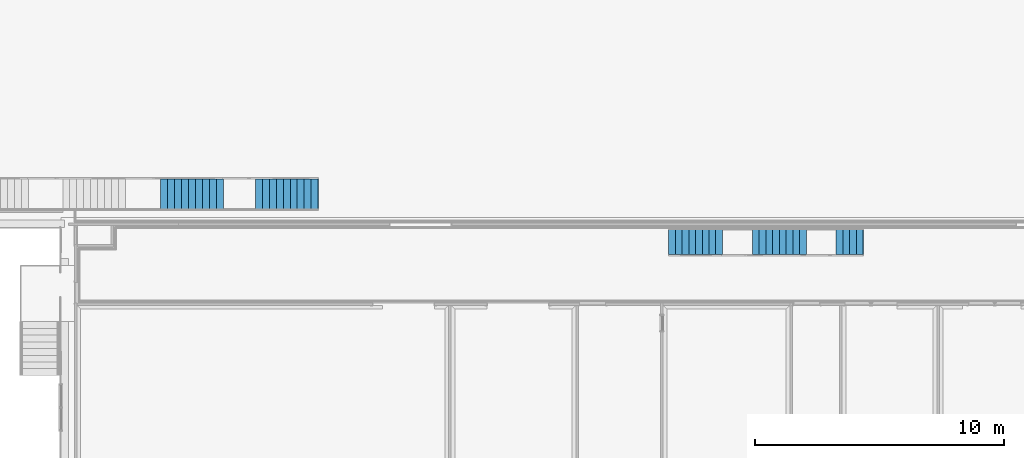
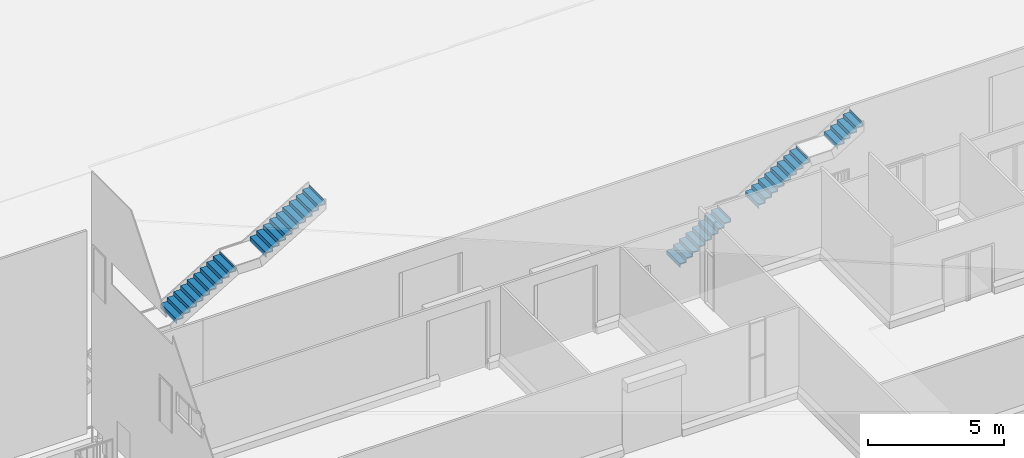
# One storey, part 54 of 64: 5 stair flights, 2 elements without a shape of their own.
"""IFC2X3 building model written with IfcOpenShell, lengths in millimetres."""

from ifc_helpers import new_model, entity, si_unit, converted_unit, derived_unit, direction, frame, frame_2d, origin, origin_2d_with_axis, place, context, subcontext, project, spatial, rectangle, extrude, element, aggregate, save


model = new_model("IFC2X3")

# Units and contexts
model_context = context("Model", 3, precision=0.01, world=origin(), true_north=direction((4.05803320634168e-15, -1.0)))
body_context = subcontext(model_context, "Body", "Model", "MODEL_VIEW")
ifc_project = project(units=[si_unit("LENGTHUNIT", "METRE", prefix="MILLI"), si_unit("AREAUNIT", "SQUARE_METRE"), si_unit("VOLUMEUNIT", "CUBIC_METRE"), converted_unit("PLANEANGLEUNIT", "DEGREE", entity("IfcRatioMeasure", 0.0174532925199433), si_unit("PLANEANGLEUNIT", "RADIAN"), dimensions=[0, 0, 0, 0, 0, 0, 0]), si_unit("MASSUNIT", "GRAM", prefix="KILO"), derived_unit("MASSDENSITYUNIT", [(si_unit("MASSUNIT", "GRAM", prefix="KILO"), 1), (si_unit("LENGTHUNIT", "METRE"), -3)]), si_unit("TIMEUNIT", "SECOND"), si_unit("FREQUENCYUNIT", "HERTZ"), si_unit("THERMODYNAMICTEMPERATUREUNIT", "DEGREE_CELSIUS"), derived_unit("THERMALTRANSMITTANCEUNIT", [(si_unit("MASSUNIT", "GRAM", prefix="KILO"), 1), (si_unit("THERMODYNAMICTEMPERATUREUNIT", "KELVIN"), -1), (si_unit("TIMEUNIT", "SECOND"), -3)]), derived_unit("VOLUMETRICFLOWRATEUNIT", [(si_unit("LENGTHUNIT", "METRE"), 3), (si_unit("TIMEUNIT", "SECOND"), -1)]), si_unit("ELECTRICCURRENTUNIT", "AMPERE"), si_unit("ELECTRICVOLTAGEUNIT", "VOLT"), si_unit("POWERUNIT", "WATT"), si_unit("FORCEUNIT", "NEWTON", prefix="KILO"), si_unit("ILLUMINANCEUNIT", "LUX"), si_unit("LUMINOUSFLUXUNIT", "LUMEN"), si_unit("LUMINOUSINTENSITYUNIT", "CANDELA"), derived_unit("USERDEFINED", [(si_unit("MASSUNIT", "GRAM", prefix="KILO"), -1), (si_unit("LENGTHUNIT", "METRE"), -2), (si_unit("TIMEUNIT", "SECOND"), 3), (si_unit("LUMINOUSFLUXUNIT", "LUMEN"), 1)]), derived_unit("LINEARVELOCITYUNIT", [(si_unit("LENGTHUNIT", "METRE"), 1), (si_unit("TIMEUNIT", "SECOND"), -1)]), si_unit("PRESSUREUNIT", "PASCAL"), derived_unit("USERDEFINED", [(si_unit("LENGTHUNIT", "METRE"), -2), (si_unit("MASSUNIT", "GRAM", prefix="KILO"), 1), (si_unit("TIMEUNIT", "SECOND"), -2)])], contexts=[model_context])

# Site, building, storey
site_placement = place(None, frame((927466.849349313, 583801.882853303, 0.0), z_axis=(0.0, 0.0, 1.0), x_axis=(-1.0, 0.0, 0.0)))
site = spatial("IfcSite", under=ifc_project, at=site_placement, Name="Surface", CompositionType="ELEMENT")
building_placement = place(site_placement, origin())
building = spatial("IfcBuilding", under=site, at=building_placement, CompositionType="ELEMENT")
storey_placement = place(building_placement, frame((0.0, 0.0, 44170.0)))
storey = spatial("IfcBuildingStorey", under=building, at=storey_placement, Name="Ground FFL", CompositionType="ELEMENT", Elevation=44170.0)

# Stair, stair flights
stair_1_placement = place(storey_placement, origin())
stair_1 = element("IfcStair", 1, at=stair_1_placement, inside=storey, Name="Assembled Stair:Stair", ObjectType="Assembled Stair:190mm max riser 250mm going", ShapeType="NOTDEFINED")
stair_flight_1_placement = place(stair_1_placement, origin())
stair_flight_1 = element("IfcStairFlight", 2, at=stair_flight_1_placement, Name="Assembled Stair:Stair:516542 Run 1", ObjectType="Assembled Stair:190mm max riser 250mm going", NumberOfRiser=10, NumberOfTreads=9, RiserHeight=0.548708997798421, TreadLength=0.918635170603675, context=body_context, shape_type="SweptSolid", body=[
    extrude(rectangle(XDim=1200.0, YDim=12.5000000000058, at=origin_2d_with_axis()), frame((-88605.2898327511, 10739.2777512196, 5134.64157839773), z_axis=(0.0, 0.0, 1.0), x_axis=(0.0, -1.0, 0.0)), (0.0, 0.0, 1.0), 167.246502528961),
    extrude(rectangle(XDim=280.000000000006, YDim=1200.0, at=origin_2d_with_axis()), frame((-88739.0398327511, 10739.2777512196, 5301.88808092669)), (0.0, 0.0, 1.0), 49.9999999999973),
    extrude(rectangle(XDim=1200.0, YDim=12.5000000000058, at=frame_2d((0.0, 8.66329230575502e-12), x_axis=(1.0, 0.0))), frame((-88885.2898327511, 10739.2777512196, 5301.88808092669), z_axis=(0.0, 0.0, 1.0), x_axis=(0.0, -1.0, 0.0)), (0.0, 0.0, 1.0), 167.246502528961),
    extrude(rectangle(XDim=279.999999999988, YDim=1200.0, at=frame_2d((-8.65441052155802e-12, 1.08002495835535e-12), x_axis=(1.0, 0.0))), frame((-89019.0398327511, 10739.2777512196, 5469.13458345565)), (0.0, 0.0, 1.0), 49.9999999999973),
    extrude(rectangle(XDim=1200.0, YDim=12.5000000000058, at=frame_2d((0.0, 8.66329230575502e-12), x_axis=(1.0, 0.0))), frame((-89165.2898327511, 10739.2777512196, 5469.13458345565), z_axis=(0.0, 0.0, 1.0), x_axis=(0.0, -1.0, 0.0)), (0.0, 0.0, 1.0), 167.246502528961),
    extrude(rectangle(XDim=279.999999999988, YDim=1200.0, at=frame_2d((-8.65441052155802e-12, 1.08002495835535e-12), x_axis=(1.0, 0.0))), frame((-89299.0398327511, 10739.2777512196, 5636.38108598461)), (0.0, 0.0, 1.0), 49.9999999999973),
    extrude(rectangle(XDim=1200.0, YDim=12.5000000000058, at=frame_2d((0.0, 8.66329230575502e-12), x_axis=(1.0, 0.0))), frame((-89445.2898327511, 10739.2777512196, 5636.38108598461), z_axis=(0.0, 0.0, 1.0), x_axis=(0.0, -1.0, 0.0)), (0.0, 0.0, 1.0), 167.246502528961),
    extrude(rectangle(XDim=279.999999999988, YDim=1200.0, at=frame_2d((-8.65441052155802e-12, 1.08002495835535e-12), x_axis=(1.0, 0.0))), frame((-89579.0398327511, 10739.2777512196, 5803.62758851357)), (0.0, 0.0, 1.0), 49.9999999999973),
    extrude(rectangle(XDim=1200.0, YDim=12.5000000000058, at=frame_2d((0.0, -8.66329230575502e-12), x_axis=(1.0, 0.0))), frame((-89725.2898327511, 10739.2777512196, 5803.62758851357), z_axis=(0.0, 0.0, 1.0), x_axis=(0.0, -1.0, 0.0)), (0.0, 0.0, 1.0), 167.246502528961),
    extrude(rectangle(XDim=279.999999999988, YDim=1200.0, at=frame_2d((8.65441052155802e-12, 1.08002495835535e-12), x_axis=(1.0, 0.0))), frame((-89859.0398327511, 10739.2777512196, 5970.87409104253)), (0.0, 0.0, 1.0), 49.9999999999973),
    extrude(rectangle(XDim=1200.0, YDim=12.5000000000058, at=frame_2d((0.0, -8.66329230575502e-12), x_axis=(1.0, 0.0))), frame((-90005.2898327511, 10739.2777512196, 5970.87409104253), z_axis=(0.0, 0.0, 1.0), x_axis=(0.0, -1.0, 0.0)), (0.0, 0.0, 1.0), 167.246502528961),
    extrude(rectangle(XDim=279.999999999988, YDim=1200.0, at=frame_2d((8.65441052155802e-12, 1.08002495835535e-12), x_axis=(1.0, 0.0))), frame((-90139.0398327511, 10739.2777512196, 6138.12059357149)), (0.0, 0.0, 1.0), 49.9999999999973),
    extrude(rectangle(XDim=1200.0, YDim=12.5000000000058, at=frame_2d((0.0, -8.66329230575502e-12), x_axis=(1.0, 0.0))), frame((-90285.2898327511, 10739.2777512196, 6138.12059357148), z_axis=(0.0, 0.0, 1.0), x_axis=(0.0, -1.0, 0.0)), (0.0, 0.0, 1.0), 167.246502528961),
    extrude(rectangle(XDim=279.999999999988, YDim=1200.0, at=frame_2d((8.65441052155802e-12, 1.08002495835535e-12), x_axis=(1.0, 0.0))), frame((-90419.0398327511, 10739.2777512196, 6305.36709610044)), (0.0, 0.0, 1.0), 49.9999999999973),
    extrude(rectangle(XDim=1200.0, YDim=12.5000000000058, at=frame_2d((0.0, 8.66329230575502e-12), x_axis=(1.0, 0.0))), frame((-90565.2898327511, 10739.2777512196, 6305.36709610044), z_axis=(0.0, 0.0, 1.0), x_axis=(0.0, -1.0, 0.0)), (0.0, 0.0, 1.0), 167.246502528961),
    extrude(rectangle(XDim=279.999999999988, YDim=1200.0, at=frame_2d((-8.65441052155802e-12, -1.08002495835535e-12), x_axis=(1.0, 0.0))), frame((-90699.0398327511, 10739.2777512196, 6472.6135986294)), (0.0, 0.0, 1.0), 49.9999999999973),
    extrude(rectangle(XDim=1200.0, YDim=12.5000000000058, at=frame_2d((0.0, 8.66329230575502e-12), x_axis=(1.0, 0.0))), frame((-90845.2898327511, 10739.2777512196, 6472.6135986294), z_axis=(0.0, 0.0, 1.0), x_axis=(0.0, -1.0, 0.0)), (0.0, 0.0, 1.0), 167.246502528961),
    extrude(rectangle(XDim=1200.0, YDim=12.5000000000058, at=origin_2d_with_axis()), frame((-91125.2898327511, 10739.2777512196, 6639.86010115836), z_axis=(0.0, 0.0, 1.0), x_axis=(0.0, -1.0, 0.0)), (0.0, 0.0, 1.0), 167.246502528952),
    extrude(rectangle(XDim=279.999999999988, YDim=1200.0, at=frame_2d((-8.65441052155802e-12, -1.08002495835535e-12), x_axis=(1.0, 0.0))), frame((-90979.0398327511, 10739.2777512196, 6639.86010115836)), (0.0, 0.0, 1.0), 49.9999999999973),
])
stair_flight_2_placement = place(stair_1_placement, origin())
stair_flight_2 = element("IfcStairFlight", 3, at=stair_flight_2_placement, Name="Assembled Stair:Stair:516542 Run 2", ObjectType="Assembled Stair:190mm max riser 250mm going", NumberOfRiser=10, NumberOfTreads=9, RiserHeight=0.548708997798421, TreadLength=0.918635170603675, context=body_context, shape_type="SweptSolid", body=[
    extrude(rectangle(XDim=1200.0, YDim=12.5000000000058, at=origin_2d_with_axis()), frame((-84805.2898327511, 10739.2777512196, 3462.17655310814), z_axis=(0.0, 0.0, 1.0), x_axis=(0.0, -1.0, 0.0)), (0.0, 0.0, 1.0), 167.246502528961),
    extrude(rectangle(XDim=280.000000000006, YDim=1200.0, at=origin_2d_with_axis()), frame((-84939.0398327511, 10739.2777512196, 3629.4230556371)), (0.0, 0.0, 1.0), 49.9999999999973),
    extrude(rectangle(XDim=1200.0, YDim=12.5000000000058, at=frame_2d((0.0, 8.66329230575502e-12), x_axis=(1.0, 0.0))), frame((-85085.2898327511, 10739.2777512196, 3629.4230556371), z_axis=(0.0, 0.0, 1.0), x_axis=(0.0, -1.0, 0.0)), (0.0, 0.0, 1.0), 167.246502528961),
    extrude(rectangle(XDim=279.999999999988, YDim=1200.0, at=frame_2d((-8.65441052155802e-12, 1.08002495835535e-12), x_axis=(1.0, 0.0))), frame((-85219.0398327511, 10739.2777512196, 3796.66955816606)), (0.0, 0.0, 1.0), 49.9999999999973),
    extrude(rectangle(XDim=1200.0, YDim=12.5000000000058, at=frame_2d((0.0, 8.66329230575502e-12), x_axis=(1.0, 0.0))), frame((-85365.2898327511, 10739.2777512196, 3796.66955816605), z_axis=(0.0, 0.0, 1.0), x_axis=(0.0, -1.0, 0.0)), (0.0, 0.0, 1.0), 167.246502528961),
    extrude(rectangle(XDim=279.999999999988, YDim=1200.0, at=frame_2d((-8.65441052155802e-12, 1.08002495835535e-12), x_axis=(1.0, 0.0))), frame((-85499.0398327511, 10739.2777512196, 3963.91606069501)), (0.0, 0.0, 1.0), 49.9999999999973),
    extrude(rectangle(XDim=1200.0, YDim=12.5000000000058, at=frame_2d((0.0, 8.66329230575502e-12), x_axis=(1.0, 0.0))), frame((-85645.2898327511, 10739.2777512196, 3963.91606069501), z_axis=(0.0, 0.0, 1.0), x_axis=(0.0, -1.0, 0.0)), (0.0, 0.0, 1.0), 167.246502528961),
    extrude(rectangle(XDim=279.999999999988, YDim=1200.0, at=frame_2d((-8.65441052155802e-12, -1.08002495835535e-12), x_axis=(1.0, 0.0))), frame((-85779.0398327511, 10739.2777512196, 4131.16256322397)), (0.0, 0.0, 1.0), 49.9999999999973),
    extrude(rectangle(XDim=1200.0, YDim=12.5000000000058, at=frame_2d((0.0, -8.66329230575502e-12), x_axis=(1.0, 0.0))), frame((-85925.2898327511, 10739.2777512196, 4131.16256322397), z_axis=(0.0, 0.0, 1.0), x_axis=(0.0, -1.0, 0.0)), (0.0, 0.0, 1.0), 167.246502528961),
    extrude(rectangle(XDim=279.999999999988, YDim=1200.0, at=frame_2d((8.65441052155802e-12, -1.08002495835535e-12), x_axis=(1.0, 0.0))), frame((-86059.0398327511, 10739.2777512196, 4298.40906575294)), (0.0, 0.0, 1.0), 49.9999999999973),
    extrude(rectangle(XDim=1200.0, YDim=12.5000000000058, at=frame_2d((0.0, -8.66329230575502e-12), x_axis=(1.0, 0.0))), frame((-86205.2898327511, 10739.2777512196, 4298.40906575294), z_axis=(0.0, 0.0, 1.0), x_axis=(0.0, -1.0, 0.0)), (0.0, 0.0, 1.0), 167.246502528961),
    extrude(rectangle(XDim=279.999999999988, YDim=1200.0, at=frame_2d((8.65441052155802e-12, 1.08002495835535e-12), x_axis=(1.0, 0.0))), frame((-86339.0398327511, 10739.2777512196, 4465.6555682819)), (0.0, 0.0, 1.0), 49.9999999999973),
    extrude(rectangle(XDim=1200.0, YDim=12.5000000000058, at=frame_2d((0.0, -8.66329230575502e-12), x_axis=(1.0, 0.0))), frame((-86485.2898327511, 10739.2777512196, 4465.65556828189), z_axis=(0.0, 0.0, 1.0), x_axis=(0.0, -1.0, 0.0)), (0.0, 0.0, 1.0), 167.246502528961),
    extrude(rectangle(XDim=279.999999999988, YDim=1200.0, at=frame_2d((8.65441052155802e-12, 1.08002495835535e-12), x_axis=(1.0, 0.0))), frame((-86619.0398327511, 10739.2777512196, 4632.90207081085)), (0.0, 0.0, 1.0), 49.9999999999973),
    extrude(rectangle(XDim=1200.0, YDim=12.5000000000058, at=frame_2d((0.0, 8.66329230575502e-12), x_axis=(1.0, 0.0))), frame((-86765.2898327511, 10739.2777512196, 4632.90207081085), z_axis=(0.0, 0.0, 1.0), x_axis=(0.0, -1.0, 0.0)), (0.0, 0.0, 1.0), 167.246502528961),
    extrude(rectangle(XDim=279.999999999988, YDim=1200.0, at=frame_2d((-8.65441052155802e-12, 1.08002495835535e-12), x_axis=(1.0, 0.0))), frame((-86899.0398327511, 10739.2777512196, 4800.14857333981)), (0.0, 0.0, 1.0), 49.9999999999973),
    extrude(rectangle(XDim=1200.0, YDim=12.5000000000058, at=frame_2d((0.0, 8.66329230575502e-12), x_axis=(1.0, 0.0))), frame((-87045.2898327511, 10739.2777512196, 4800.14857333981), z_axis=(0.0, 0.0, 1.0), x_axis=(0.0, -1.0, 0.0)), (0.0, 0.0, 1.0), 167.246502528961),
    extrude(rectangle(XDim=1200.0, YDim=12.5000000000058, at=origin_2d_with_axis()), frame((-87325.2898327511, 10739.2777512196, 4967.39507586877), z_axis=(0.0, 0.0, 1.0), x_axis=(0.0, -1.0, 0.0)), (0.0, 0.0, 1.0), 167.246502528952),
    extrude(rectangle(XDim=279.999999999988, YDim=1200.0, at=frame_2d((-8.65441052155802e-12, 1.08002495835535e-12), x_axis=(1.0, 0.0))), frame((-87179.0398327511, 10739.2777512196, 4967.39507586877)), (0.0, 0.0, 1.0), 49.9999999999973),
])
aggregate(stair_1, [stair_flight_1, stair_flight_2])

stair_2_placement = place(storey_placement, origin())
stair_2 = element("IfcStair", 4, at=stair_2_placement, inside=storey, Name="Assembled Stair:Stair", ObjectType="Assembled Stair:170mm max riser 270mm going", ShapeType="NOTDEFINED")
stair_flight_3_placement = place(stair_2_placement, origin())
stair_flight_3 = element("IfcStairFlight", 5, at=stair_flight_3_placement, Name="Assembled Stair:Stair:621048 Run 1", ObjectType="Assembled Stair:170mm max riser 270mm going", NumberOfRiser=9, NumberOfTreads=8, RiserHeight=0.546806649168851, TreadLength=0.885826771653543, context=body_context, shape_type="SweptSolid", body=[
    extrude(rectangle(XDim=999.999999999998, YDim=12.5000000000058, at=origin_2d_with_axis()), frame((-105175.244501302, 12672.4703497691, 0.0), z_axis=(0.0, 0.0, 1.0), x_axis=(0.0, -1.0, 0.0)), (0.0, 0.0, 1.0), 116.666666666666),
    extrude(rectangle(XDim=270.000000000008, YDim=999.999999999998, at=origin_2d_with_axis()), frame((-105303.994501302, 12672.4703497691, 116.666666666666)), (0.0, 0.0, 1.0), 49.9999999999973),
    extrude(rectangle(XDim=999.999999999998, YDim=12.5000000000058, at=origin_2d_with_axis()), frame((-105445.244501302, 12672.4703497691, 116.666666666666), z_axis=(0.0, 0.0, 1.0), x_axis=(0.0, -1.0, 0.0)), (0.0, 0.0, 1.0), 166.666666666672),
    extrude(rectangle(XDim=269.999999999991, YDim=1000.0, at=frame_2d((-8.66862137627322e-12, -2.18847162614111e-12), x_axis=(1.0, 0.0))), frame((-105573.994501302, 12672.4703497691, 283.333333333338)), (0.0, 0.0, 1.0), 49.9999999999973),
    extrude(rectangle(XDim=999.999999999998, YDim=12.5000000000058, at=origin_2d_with_axis()), frame((-105715.244501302, 12672.4703497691, 283.33333333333), z_axis=(0.0, 0.0, 1.0), x_axis=(0.0, -1.0, 0.0)), (0.0, 0.0, 1.0), 166.666666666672),
    extrude(rectangle(XDim=269.999999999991, YDim=1000.0, at=frame_2d((-8.66862137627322e-12, -2.18847162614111e-12), x_axis=(1.0, 0.0))), frame((-105843.994501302, 12672.4703497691, 450.0)), (0.0, 0.0, 1.0), 49.9999999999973),
    extrude(rectangle(XDim=999.999999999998, YDim=12.5000000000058, at=origin_2d_with_axis()), frame((-105985.244501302, 12672.4703497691, 450.0), z_axis=(0.0, 0.0, 1.0), x_axis=(0.0, -1.0, 0.0)), (0.0, 0.0, 1.0), 166.666666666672),
    extrude(rectangle(XDim=269.999999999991, YDim=1000.0, at=frame_2d((8.66862137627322e-12, -2.18847162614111e-12), x_axis=(1.0, 0.0))), frame((-106113.994501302, 12672.4703497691, 616.666666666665)), (0.0, 0.0, 1.0), 49.9999999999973),
    extrude(rectangle(XDim=999.999999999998, YDim=12.5000000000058, at=origin_2d_with_axis()), frame((-106255.244501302, 12672.4703497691, 616.666666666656), z_axis=(0.0, 0.0, 1.0), x_axis=(0.0, -1.0, 0.0)), (0.0, 0.0, 1.0), 166.666666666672),
    extrude(rectangle(XDim=269.999999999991, YDim=1000.0, at=frame_2d((8.66862137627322e-12, -2.18847162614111e-12), x_axis=(1.0, 0.0))), frame((-106383.994501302, 12672.4703497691, 783.333333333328)), (0.0, 0.0, 1.0), 49.9999999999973),
    extrude(rectangle(XDim=999.999999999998, YDim=12.5000000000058, at=origin_2d_with_axis()), frame((-106525.244501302, 12672.4703497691, 783.333333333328), z_axis=(0.0, 0.0, 1.0), x_axis=(0.0, -1.0, 0.0)), (0.0, 0.0, 1.0), 166.666666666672),
    extrude(rectangle(XDim=269.999999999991, YDim=1000.0, at=frame_2d((-8.66862137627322e-12, -2.18847162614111e-12), x_axis=(1.0, 0.0))), frame((-106653.994501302, 12672.4703497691, 950.0)), (0.0, 0.0, 1.0), 49.9999999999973),
    extrude(rectangle(XDim=999.999999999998, YDim=12.5000000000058, at=origin_2d_with_axis()), frame((-106795.244501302, 12672.4703497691, 950.0), z_axis=(0.0, 0.0, 1.0), x_axis=(0.0, -1.0, 0.0)), (0.0, 0.0, 1.0), 166.666666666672),
    extrude(rectangle(XDim=269.999999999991, YDim=1000.0, at=frame_2d((-8.66862137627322e-12, -2.18847162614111e-12), x_axis=(1.0, 0.0))), frame((-106923.994501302, 12672.4703497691, 1116.66666666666)), (0.0, 0.0, 1.0), 49.9999999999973),
    extrude(rectangle(XDim=999.999999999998, YDim=12.5000000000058, at=origin_2d_with_axis()), frame((-107065.244501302, 12672.4703497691, 1116.66666666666), z_axis=(0.0, 0.0, 1.0), x_axis=(0.0, -1.0, 0.0)), (0.0, 0.0, 1.0), 166.666666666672),
    extrude(rectangle(XDim=1000.0, YDim=12.5000000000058, at=origin_2d_with_axis()), frame((-107335.244501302, 12672.4703497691, 1283.33333333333), z_axis=(0.0, 0.0, 1.0), x_axis=(0.0, -1.0, 0.0)), (0.0, 0.0, 1.0), 166.666666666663),
    extrude(rectangle(XDim=269.999999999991, YDim=1000.0, at=frame_2d((8.66862137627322e-12, -2.18847162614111e-12), x_axis=(1.0, 0.0))), frame((-107193.994501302, 12672.4703497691, 1283.33333333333)), (0.0, 0.0, 1.0), 49.9999999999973),
])
stair_flight_4_placement = place(stair_2_placement, origin())
stair_flight_4 = element("IfcStairFlight", 6, at=stair_flight_4_placement, Name="Assembled Stair:Stair:621048 Run 2", ObjectType="Assembled Stair:170mm max riser 270mm going", NumberOfRiser=9, NumberOfTreads=8, RiserHeight=0.546806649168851, TreadLength=0.885826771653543, context=body_context, shape_type="SweptSolid", body=[
    extrude(rectangle(XDim=999.999999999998, YDim=12.5000000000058, at=origin_2d_with_axis()), frame((-108535.190011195, 12672.4703497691, 1450.0), z_axis=(0.0, 0.0, 1.0), x_axis=(0.0, -1.0, 0.0)), (0.0, 0.0, 1.0), 166.666666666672),
    extrude(rectangle(XDim=270.000000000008, YDim=999.999999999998, at=origin_2d_with_axis()), frame((-108663.940011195, 12672.4703497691, 1616.66666666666)), (0.0, 0.0, 1.0), 49.9999999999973),
    extrude(rectangle(XDim=999.999999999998, YDim=12.5000000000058, at=origin_2d_with_axis()), frame((-108805.190011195, 12672.4703497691, 1616.66666666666), z_axis=(0.0, 0.0, 1.0), x_axis=(0.0, -1.0, 0.0)), (0.0, 0.0, 1.0), 166.666666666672),
    extrude(rectangle(XDim=269.999999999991, YDim=1000.0, at=frame_2d((-8.66862137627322e-12, -2.18847162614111e-12), x_axis=(1.0, 0.0))), frame((-108933.940011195, 12672.4703497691, 1783.33333333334)), (0.0, 0.0, 1.0), 49.9999999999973),
    extrude(rectangle(XDim=999.999999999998, YDim=12.5000000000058, at=origin_2d_with_axis()), frame((-109075.190011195, 12672.4703497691, 1783.33333333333), z_axis=(0.0, 0.0, 1.0), x_axis=(0.0, -1.0, 0.0)), (0.0, 0.0, 1.0), 166.666666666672),
    extrude(rectangle(XDim=269.999999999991, YDim=1000.0, at=frame_2d((-8.66862137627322e-12, -2.18847162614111e-12), x_axis=(1.0, 0.0))), frame((-109203.940011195, 12672.4703497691, 1950.0)), (0.0, 0.0, 1.0), 49.9999999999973),
    extrude(rectangle(XDim=999.999999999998, YDim=12.5000000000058, at=origin_2d_with_axis()), frame((-109345.190011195, 12672.4703497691, 1950.0), z_axis=(0.0, 0.0, 1.0), x_axis=(0.0, -1.0, 0.0)), (0.0, 0.0, 1.0), 166.666666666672),
    extrude(rectangle(XDim=269.999999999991, YDim=1000.0, at=frame_2d((8.66862137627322e-12, -2.18847162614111e-12), x_axis=(1.0, 0.0))), frame((-109473.940011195, 12672.4703497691, 2116.66666666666)), (0.0, 0.0, 1.0), 49.9999999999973),
    extrude(rectangle(XDim=999.999999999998, YDim=12.5000000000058, at=origin_2d_with_axis()), frame((-109615.190011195, 12672.4703497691, 2116.66666666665), z_axis=(0.0, 0.0, 1.0), x_axis=(0.0, -1.0, 0.0)), (0.0, 0.0, 1.0), 166.666666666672),
    extrude(rectangle(XDim=269.999999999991, YDim=1000.0, at=frame_2d((8.66862137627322e-12, -2.18847162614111e-12), x_axis=(1.0, 0.0))), frame((-109743.940011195, 12672.4703497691, 2283.33333333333)), (0.0, 0.0, 1.0), 49.9999999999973),
    extrude(rectangle(XDim=999.999999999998, YDim=12.5000000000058, at=origin_2d_with_axis()), frame((-109885.190011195, 12672.4703497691, 2283.33333333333), z_axis=(0.0, 0.0, 1.0), x_axis=(0.0, -1.0, 0.0)), (0.0, 0.0, 1.0), 166.666666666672),
    extrude(rectangle(XDim=269.999999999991, YDim=1000.0, at=frame_2d((-8.66862137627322e-12, -2.18847162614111e-12), x_axis=(1.0, 0.0))), frame((-110013.940011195, 12672.4703497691, 2450.0)), (0.0, 0.0, 1.0), 49.9999999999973),
    extrude(rectangle(XDim=999.999999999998, YDim=12.5000000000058, at=origin_2d_with_axis()), frame((-110155.190011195, 12672.4703497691, 2450.0), z_axis=(0.0, 0.0, 1.0), x_axis=(0.0, -1.0, 0.0)), (0.0, 0.0, 1.0), 166.666666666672),
    extrude(rectangle(XDim=269.999999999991, YDim=1000.0, at=frame_2d((-8.66862137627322e-12, -2.18847162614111e-12), x_axis=(1.0, 0.0))), frame((-110283.940011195, 12672.4703497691, 2616.66666666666)), (0.0, 0.0, 1.0), 49.9999999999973),
    extrude(rectangle(XDim=999.999999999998, YDim=12.5000000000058, at=origin_2d_with_axis()), frame((-110425.190011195, 12672.4703497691, 2616.66666666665), z_axis=(0.0, 0.0, 1.0), x_axis=(0.0, -1.0, 0.0)), (0.0, 0.0, 1.0), 166.666666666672),
    extrude(rectangle(XDim=1000.0, YDim=12.5000000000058, at=origin_2d_with_axis()), frame((-110695.190011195, 12672.4703497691, 2783.33333333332), z_axis=(0.0, 0.0, 1.0), x_axis=(0.0, -1.0, 0.0)), (0.0, 0.0, 1.0), 166.666666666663),
    extrude(rectangle(XDim=269.999999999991, YDim=1000.0, at=frame_2d((8.66862137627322e-12, -2.18847162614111e-12), x_axis=(1.0, 0.0))), frame((-110553.940011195, 12672.4703497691, 2783.33333333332)), (0.0, 0.0, 1.0), 49.9999999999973),
])
stair_flight_5_placement = place(stair_2_placement, origin())
stair_flight_5 = element("IfcStairFlight", 7, at=stair_flight_5_placement, Name="Assembled Stair:Stair:621048 Run 3", ObjectType="Assembled Stair:170mm max riser 270mm going", NumberOfRiser=5, NumberOfTreads=4, RiserHeight=0.546806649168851, TreadLength=0.885826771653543, context=body_context, shape_type="SweptSolid", body=[
    extrude(rectangle(XDim=999.999999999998, YDim=12.5000000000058, at=origin_2d_with_axis()), frame((-111895.190011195, 12672.4703497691, 2950.0), z_axis=(0.0, 0.0, 1.0), x_axis=(0.0, -1.0, 0.0)), (0.0, 0.0, 1.0), 166.666666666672),
    extrude(rectangle(XDim=270.000000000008, YDim=1000.0, at=frame_2d((0.0, -2.18847162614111e-12), x_axis=(1.0, 0.0))), frame((-112023.940011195, 12672.4703497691, 3116.66666666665)), (0.0, 0.0, 1.0), 49.9999999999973),
    extrude(rectangle(XDim=1000.0, YDim=12.5000000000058, at=origin_2d_with_axis()), frame((-112165.190011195, 12672.4703497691, 3116.66666666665), z_axis=(0.0, 0.0, 1.0), x_axis=(0.0, -1.0, 0.0)), (0.0, 0.0, 1.0), 166.666666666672),
    extrude(rectangle(XDim=269.999999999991, YDim=1000.0, at=frame_2d((-8.65441052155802e-12, -1.08002495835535e-12), x_axis=(1.0, 0.0))), frame((-112293.940011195, 12672.4703497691, 3283.33333333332)), (0.0, 0.0, 1.0), 49.9999999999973),
    extrude(rectangle(XDim=1000.0, YDim=12.5000000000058, at=origin_2d_with_axis()), frame((-112435.190011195, 12672.4703497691, 3283.33333333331), z_axis=(0.0, 0.0, 1.0), x_axis=(0.0, -1.0, 0.0)), (0.0, 0.0, 1.0), 166.666666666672),
    extrude(rectangle(XDim=269.999999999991, YDim=1000.0, at=frame_2d((8.65441052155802e-12, -1.08002495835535e-12), x_axis=(1.0, 0.0))), frame((-112563.940011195, 12672.4703497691, 3450.0)), (0.0, 0.0, 1.0), 49.9999999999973),
    extrude(rectangle(XDim=1000.0, YDim=12.5000000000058, at=origin_2d_with_axis()), frame((-112705.190011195, 12672.4703497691, 3450.0), z_axis=(0.0, 0.0, 1.0), x_axis=(0.0, -1.0, 0.0)), (0.0, 0.0, 1.0), 166.666666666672),
    extrude(rectangle(XDim=999.999999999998, YDim=12.5000000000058, at=origin_2d_with_axis()), frame((-112975.190011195, 12672.4703497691, 3616.66666666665), z_axis=(0.0, 0.0, 1.0), x_axis=(0.0, -1.0, 0.0)), (0.0, 0.0, 1.0), 166.666666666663),
    extrude(rectangle(XDim=269.999999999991, YDim=1000.0, at=frame_2d((8.65441052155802e-12, -1.08002495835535e-12), x_axis=(1.0, 0.0))), frame((-112833.940011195, 12672.4703497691, 3616.66666666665)), (0.0, 0.0, 1.0), 49.9999999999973),
])
aggregate(stair_2, [stair_flight_3, stair_flight_4, stair_flight_5])

save(model, "model.ifc")
